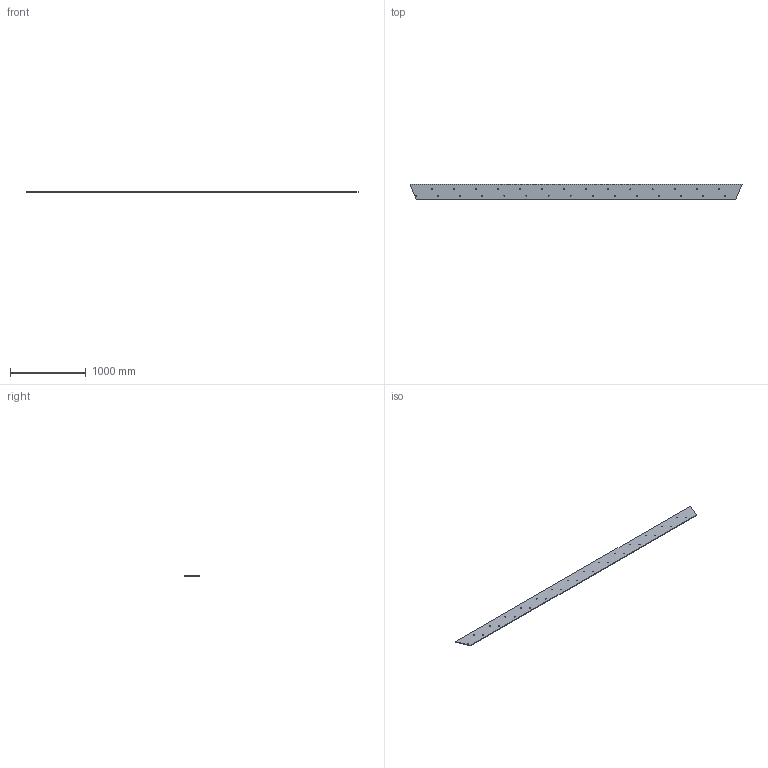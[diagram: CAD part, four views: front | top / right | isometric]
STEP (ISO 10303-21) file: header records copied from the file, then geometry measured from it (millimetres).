
FILE_DESCRIPTION(/* description */ (''),/* implementation_level */ '2;1');
FILE_NAME(/* name */ 'Pos103-Brede Strip 10x200-S235JRG2-2st',/* time_stamp */ '2024-08-06T11:42:42+02:00',/* author */ (''),/* organization */ (''),/* preprocessor_version */ 'ST-DEVELOPER v16.5',/* originating_system */ 'HiCAD 2024 2901.2 Build 361',/* authorisation */ '');
FILE_SCHEMA (('AUTOMOTIVE_DESIGN { 1 0 10303 214 1 1 1 1 }'));
Length unit declared in the file: millimetre
Products named in the file (1): Pos103-Brede Strip 10x200-S235JRG2-2st
Bounding box: 4370.14 x 200 x 10 mm (x, y, z)
Volume: 8529958.9 mm3; surface area: 1808822.2 mm2
Topology: 1 solids, 1 shells, 35 faces, 128 edges, 95 vertices
Faces by surface type: cylinder 29, plane 6
Full cylindrical faces by diameter (mm): 14 x29
Entity records: 1860 total; most frequent: DIRECTION 198, CARTESIAN_POINT 171, PRESENTATION_STYLE_ASSIGNMENT 141, COLOUR_RGB 141, DRAUGHTING_PRE_DEFINED_CURVE_FONT 140, CURVE_STYLE 140, OVER_RIDING_STYLED_ITEM 140, ORIENTED_EDGE 140
